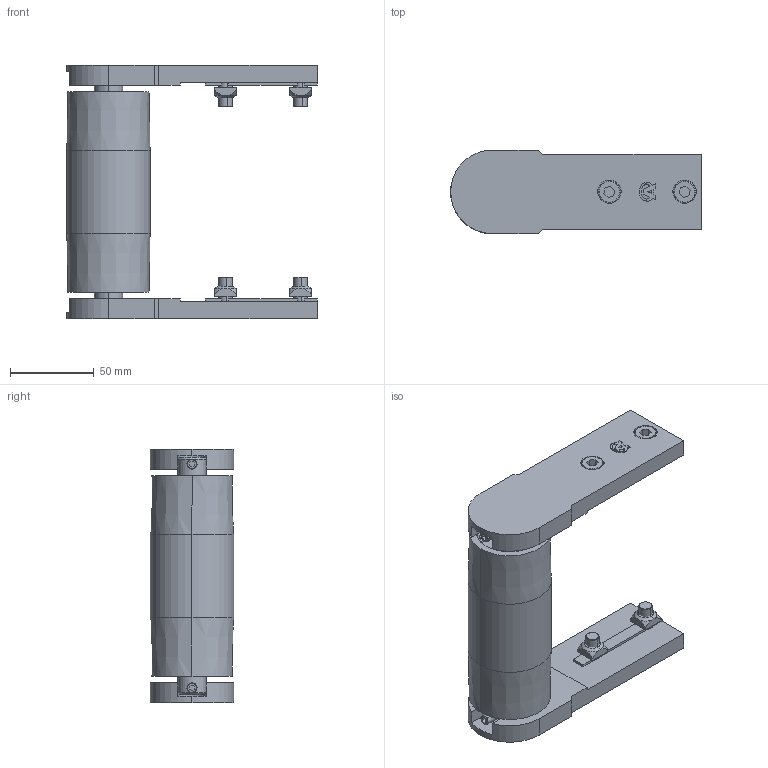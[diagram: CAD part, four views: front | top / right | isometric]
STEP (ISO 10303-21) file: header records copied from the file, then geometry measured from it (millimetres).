
FILE_DESCRIPTION (( 'STEP AP203' ), '1' );
FILE_NAME ('084.050.KIO.100.STEP', '2015-06-03T08:14:56', ( '' ), ( '' ), 'SwSTEP 2.0', 'SolidWorks 2012', '' );
FILE_SCHEMA (( 'CONFIG_CONTROL_DESIGN' ));
Length unit declared in the file: millimetre
Products named in the file (1): 084.050.KIO.100
Bounding box: 150 x 50 x 152 mm (x, y, z)
Volume: 303869.3 mm3; surface area: 98429.8 mm2
Topology: 18 solids, 18 shells, 426 faces, 1032 edges, 672 vertices
Faces by surface type: plane 180, cylinder 112, cone 48, bspline 46, torus 40
Entity records: 13439 total; most frequent: CARTESIAN_POINT 3433, ORIENTED_EDGE 2064, DIRECTION 2002, EDGE_CURVE 1032, AXIS2_PLACEMENT_3D 745, VERTEX_POINT 672, VECTOR 512, LINE 512
